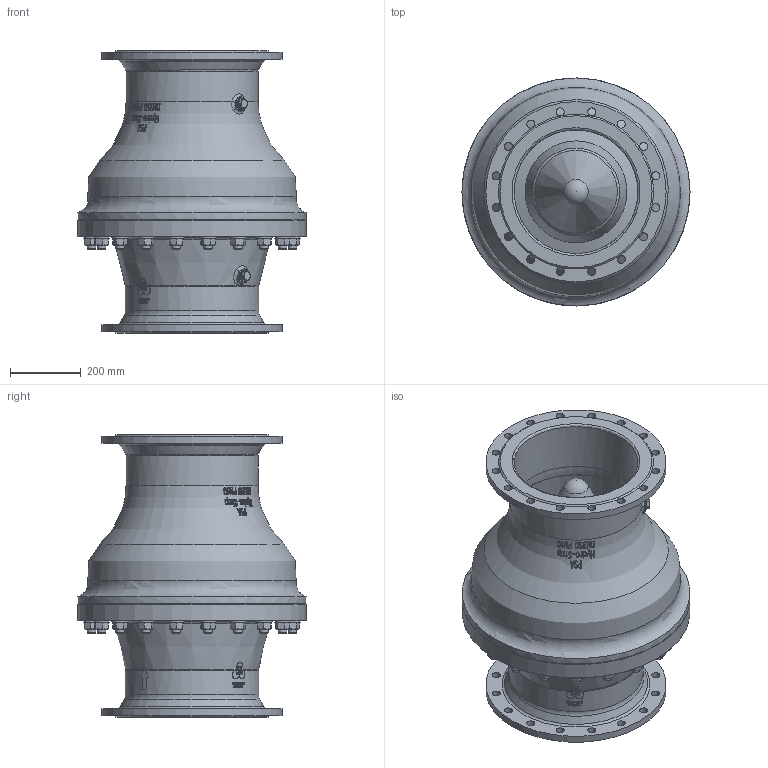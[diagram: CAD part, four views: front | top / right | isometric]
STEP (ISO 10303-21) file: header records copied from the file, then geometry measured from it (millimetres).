
FILE_DESCRIPTION(/* description */ ('PSA Hydro-Stop DN350 PN10'),/* implementation_level */ '2;1');
FILE_NAME(/* name */ 'PSA_Hydro-Stop_DN350_PN10',/* time_stamp */ '2024-10-09T15:33:08+02:00',/* author */ ('Christin-Michelle Fremgen'),/* organization */ ('PSA Wasserarmaturen GmbH'),/* preprocessor_version */ 'ST-DEVELOPER v18.104',/* originating_system */ 'Solid Edge',/* authorisation */ 'Unknown');
FILE_SCHEMA (('AUTOMOTIVE_DESIGN {1 0 10303 214 3 1 1}'));
Length unit declared in the file: millimetre
Products named in the file (1): PSA_Hydro-Stop_DN350_PN10
Bounding box: 645 x 645 x 799 mm (x, y, z)
Volume: 66655401.9 mm3; surface area: 3714112.1 mm2
Topology: 1 solids, 27 shells, 1525 faces, 3846 edges, 2558 vertices
Faces by surface type: plane 796, cylinder 255, bspline 197, cone 191, torus 83, sphere 3
Full cylindrical faces by diameter (mm): 13.22 x2, 17.294 x3, 20 x1, 23 x32, 24 x40, 24.117 x2, 25 x20, 27 x22, 32 x2, 33 x2, 44 x20, 70 x1, 281 x1, 296 x1, 315 x1, 350 x2, 374 x1, 378 x1, 391.944 x1, 510 x2, 637.672 x1, 645 x2
Entity records: 72963 total; most frequent: CARTESIAN_POINT 30100, ORIENTED_EDGE 6468, DIRECTION 5894, EDGE_CURVE 3234, AXIS2_PLACEMENT_3D 2422, VERTEX_POINT 2336, EDGE_LOOP 2218, FACE_BOUND 2218
